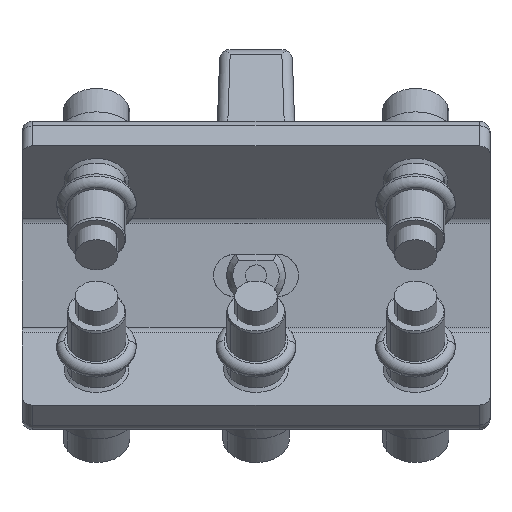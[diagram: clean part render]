
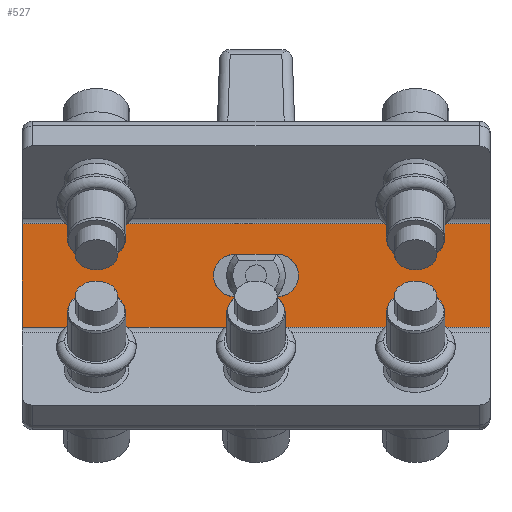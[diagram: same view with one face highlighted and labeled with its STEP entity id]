
A CAD part, front view. The second image highlights one B-rep face of the part: STEP entity #527.
In plain terms, the highlighted planar face has unit normal (0, -1, 0).
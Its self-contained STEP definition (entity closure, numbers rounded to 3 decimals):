
#527=ADVANCED_FACE('5252148.1_Anbindung mittig SW50',(#1328,#1329),#1330,.T.);
#1328=FACE_OUTER_BOUND('',#2524,.T.);
#1329=FACE_BOUND('',#2525,.T.);
#1330=PLANE('',#2526);
#2524=EDGE_LOOP('',(#4082,#4083,#4084,#4085));
#2525=EDGE_LOOP('',(#4086,#4087,#4088,#4089,#4090,#4091));
#2526=AXIS2_PLACEMENT_3D('',#4092,#4093,#4094);
#4082=ORIENTED_EDGE('',*,*,#7181,.F.);
#4083=ORIENTED_EDGE('',*,*,#7182,.T.);
#4084=ORIENTED_EDGE('',*,*,#7183,.T.);
#4085=ORIENTED_EDGE('',*,*,#7184,.F.);
#4086=ORIENTED_EDGE('',*,*,#7177,.F.);
#4087=ORIENTED_EDGE('',*,*,#7174,.F.);
#4088=ORIENTED_EDGE('',*,*,#7117,.F.);
#4089=ORIENTED_EDGE('',*,*,#7172,.F.);
#4090=ORIENTED_EDGE('',*,*,#7179,.F.);
#4091=ORIENTED_EDGE('',*,*,#7112,.F.);
#4092=CARTESIAN_POINT('',(0.0,25.0,9.734));
#4093=DIRECTION('',(0.0,-1.0,0.0));
#4094=DIRECTION('',(0.0,0.0,-1.0));
#7112=EDGE_CURVE('',#8389,#8392,#8393,.T.);
#7117=EDGE_CURVE('',#8398,#8401,#8402,.T.);
#7172=EDGE_CURVE('',#8495,#8398,#8497,.T.);
#7174=EDGE_CURVE('',#8401,#8499,#8500,.T.);
#7177=EDGE_CURVE('',#8499,#8389,#8503,.T.);
#7179=EDGE_CURVE('',#8392,#8495,#8505,.T.);
#7181=EDGE_CURVE('',#8507,#8508,#8509,.T.);
#7182=EDGE_CURVE('',#8507,#8510,#8511,.T.);
#7183=EDGE_CURVE('',#8510,#8512,#8513,.T.);
#7184=EDGE_CURVE('',#8508,#8512,#8514,.T.);
#8389=VERTEX_POINT('',#10471);
#8392=VERTEX_POINT('',#10475);
#8393=(B_SPLINE_CURVE(4,(#10477,#10478,#10479,#10480,#10481),.UNSPECIFIED.,.F.,.F.)B_SPLINE_CURVE_WITH_KNOTS((5,5),(6.283,18.85),.UNSPECIFIED.)RATIONAL_B_SPLINE_CURVE((1.0,0.707,0.667,0.707,1.0))BOUNDED_CURVE()REPRESENTATION_ITEM('')GEOMETRIC_REPRESENTATION_ITEM()CURVE());
#8398=VERTEX_POINT('',#10504);
#8401=VERTEX_POINT('',#10508);
#8402=(B_SPLINE_CURVE(4,(#10510,#10511,#10512,#10513,#10514),.UNSPECIFIED.,.F.,.F.)B_SPLINE_CURVE_WITH_KNOTS((5,5),(6.283,18.85),.UNSPECIFIED.)RATIONAL_B_SPLINE_CURVE((1.0,0.707,0.667,0.707,1.0))BOUNDED_CURVE()REPRESENTATION_ITEM('')GEOMETRIC_REPRESENTATION_ITEM()CURVE());
#8495=VERTEX_POINT('',#10923);
#8497=(B_SPLINE_CURVE(4,(#10927,#10928,#10929,#10930,#10931),.UNSPECIFIED.,.F.,.F.)B_SPLINE_CURVE_WITH_KNOTS((5,5),(6.283,18.85),.UNSPECIFIED.)RATIONAL_B_SPLINE_CURVE((1.0,0.707,0.667,0.707,1.0))BOUNDED_CURVE()REPRESENTATION_ITEM('')GEOMETRIC_REPRESENTATION_ITEM()CURVE());
#8499=VERTEX_POINT('',#10939);
#8500=B_SPLINE_CURVE_WITH_KNOTS('',1,(#10940,#10941),.UNSPECIFIED.,.F.,.F.,(2,2),(0.,1.0),.UNSPECIFIED.);
#8503=(B_SPLINE_CURVE(4,(#10946,#10947,#10948,#10949,#10950),.UNSPECIFIED.,.F.,.F.)B_SPLINE_CURVE_WITH_KNOTS((5,5),(6.283,18.85),.UNSPECIFIED.)RATIONAL_B_SPLINE_CURVE((1.0,0.707,0.667,0.707,1.0))BOUNDED_CURVE()REPRESENTATION_ITEM('')GEOMETRIC_REPRESENTATION_ITEM()CURVE());
#8505=B_SPLINE_CURVE_WITH_KNOTS('',1,(#10958,#10959),.UNSPECIFIED.,.F.,.F.,(2,2),(0.,1.0),.UNSPECIFIED.);
#8507=VERTEX_POINT('',#10961);
#8508=VERTEX_POINT('',#10962);
#8509=B_SPLINE_CURVE_WITH_KNOTS('',1,(#10963,#10964),.UNSPECIFIED.,.F.,.F.,(2,2),(0.0,1.0),.UNSPECIFIED.);
#8510=VERTEX_POINT('',#10965);
#8511=B_SPLINE_CURVE_WITH_KNOTS('',1,(#10966,#10967),.UNSPECIFIED.,.F.,.F.,(2,2),(0.0,1.0),.UNSPECIFIED.);
#8512=VERTEX_POINT('',#10968);
#8513=B_SPLINE_CURVE_WITH_KNOTS('',1,(#10969,#10970),.UNSPECIFIED.,.F.,.F.,(2,2),(0.0,1.0),.UNSPECIFIED.);
#8514=B_SPLINE_CURVE_WITH_KNOTS('',1,(#10971,#10972),.UNSPECIFIED.,.F.,.F.,(2,2),(0.0,1.0),.UNSPECIFIED.);
#10471=CARTESIAN_POINT('',(-8.0,25.0,0.));
#10475=CARTESIAN_POINT('',(-4.,25.0,-4.0));
#10477=CARTESIAN_POINT('',(-4.0,25.0,4.0));
#10478=CARTESIAN_POINT('',(-8.,25.0,4.0));
#10479=CARTESIAN_POINT('',(-10.0,25.0,0.));
#10480=CARTESIAN_POINT('',(-8.0,25.0,-4.));
#10481=CARTESIAN_POINT('',(-4.,25.0,-4.0));
#10504=CARTESIAN_POINT('',(8.0,25.0,0.));
#10508=CARTESIAN_POINT('',(4.0,25.0,4.0));
#10510=CARTESIAN_POINT('',(4.0,25.0,-4.0));
#10511=CARTESIAN_POINT('',(8.0,25.0,-4.0));
#10512=CARTESIAN_POINT('',(10.0,25.0,0.));
#10513=CARTESIAN_POINT('',(8.0,25.0,4.0));
#10514=CARTESIAN_POINT('',(4.0,25.0,4.0));
#10923=CARTESIAN_POINT('',(4.0,25.0,-4.0));
#10927=CARTESIAN_POINT('',(4.0,25.0,-4.0));
#10928=CARTESIAN_POINT('',(8.0,25.0,-4.0));
#10929=CARTESIAN_POINT('',(10.0,25.0,0.));
#10930=CARTESIAN_POINT('',(8.0,25.0,4.0));
#10931=CARTESIAN_POINT('',(4.0,25.0,4.0));
#10939=CARTESIAN_POINT('',(-4.0,25.0,4.0));
#10940=CARTESIAN_POINT('',(4.0,25.0,4.0));
#10941=CARTESIAN_POINT('',(-4.0,25.0,4.0));
#10946=CARTESIAN_POINT('',(-4.0,25.0,4.0));
#10947=CARTESIAN_POINT('',(-8.,25.0,4.0));
#10948=CARTESIAN_POINT('',(-10.0,25.0,0.));
#10949=CARTESIAN_POINT('',(-8.0,25.0,-4.));
#10950=CARTESIAN_POINT('',(-4.,25.0,-4.0));
#10958=CARTESIAN_POINT('',(-4.0,25.0,-4.0));
#10959=CARTESIAN_POINT('',(4.0,25.0,-4.0));
#10961=CARTESIAN_POINT('',(-44.0,25.0,9.734));
#10962=CARTESIAN_POINT('',(44.0,25.0,9.734));
#10963=CARTESIAN_POINT('',(-44.0,25.0,9.734));
#10964=CARTESIAN_POINT('',(44.0,25.0,9.734));
#10965=CARTESIAN_POINT('',(-44.0,25.0,-9.734));
#10966=CARTESIAN_POINT('',(-44.0,25.0,9.734));
#10967=CARTESIAN_POINT('',(-44.0,25.0,-9.734));
#10968=CARTESIAN_POINT('',(44.0,25.0,-9.734));
#10969=CARTESIAN_POINT('',(-44.0,25.0,-9.734));
#10970=CARTESIAN_POINT('',(44.0,25.0,-9.734));
#10971=CARTESIAN_POINT('',(44.0,25.0,9.734));
#10972=CARTESIAN_POINT('',(44.0,25.0,-9.734));
